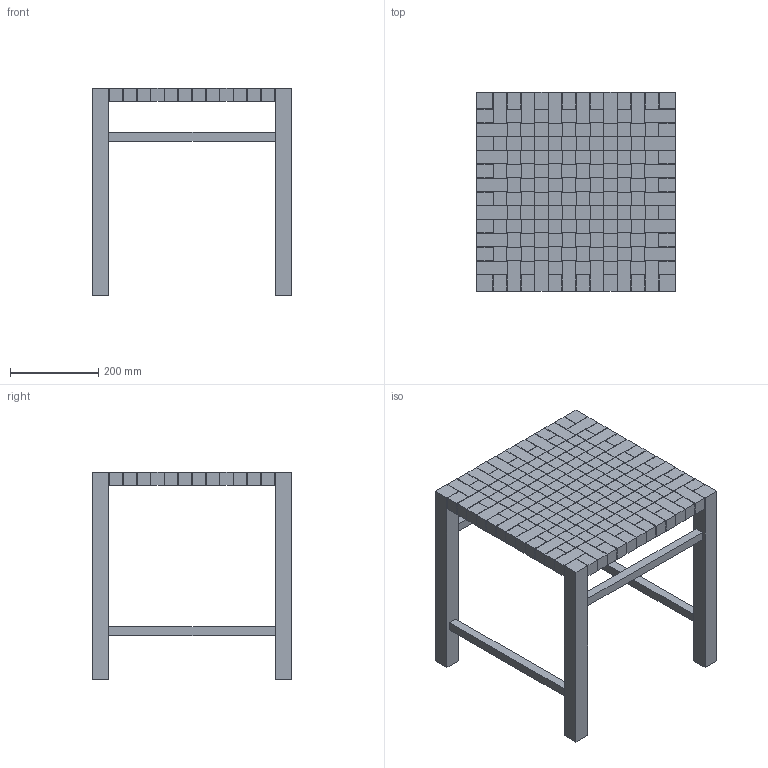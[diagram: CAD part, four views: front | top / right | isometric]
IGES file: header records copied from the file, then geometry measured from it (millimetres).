
Global section: file name: N:\e15\ ENTWICKLUNG\E15_PRODUKTE_DWG_DXF\neue_Produkte_2012\FK03_ASWAN\3D\120327_FK03_ASWAN_Isometrie.igs; native system: VectorWorks; preprocessor: HarmonyWare IGES v1.5.9; date: 20120328.095902; units: millimetre
Bounding box: 450 x 450 x 470 mm (x, y, z)
Volume: 6350640 mm3; surface area: 1106224 mm2
Topology: 16 solids, 280 shells, 360 faces, 1248 edges, 1184 vertices
Faces by surface type: bspline 360
